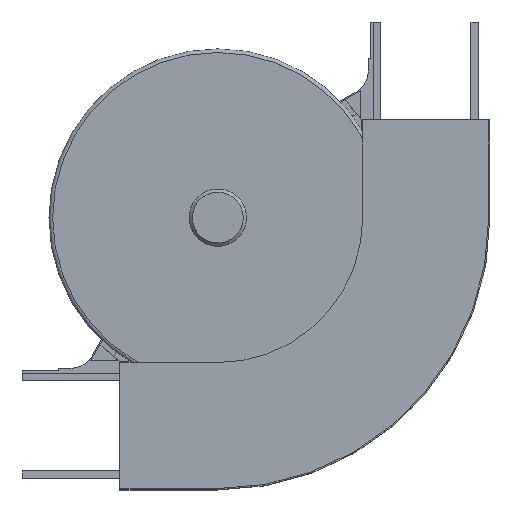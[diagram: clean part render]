
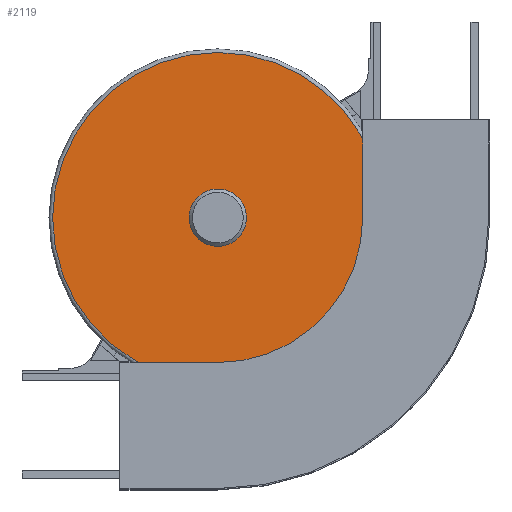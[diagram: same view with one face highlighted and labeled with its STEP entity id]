
A CAD part, top view. The second image highlights one B-rep face of the part: STEP entity #2119.
In plain terms, the highlighted planar face has unit normal (0, 0, 1).
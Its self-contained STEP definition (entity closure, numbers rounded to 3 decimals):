
#44=FACE_BOUND('',#347,.T.);
#83=CIRCLE('',#2281,21.);
#84=CIRCLE('',#2283,135.);
#218=FACE_OUTER_BOUND('',#346,.T.);
#346=EDGE_LOOP('',(#1799));
#347=EDGE_LOOP('',(#1800));
#1027=VERTEX_POINT('',#3369);
#1028=VERTEX_POINT('',#3373);
#1291=EDGE_CURVE('',#1027,#1027,#83,.T.);
#1293=EDGE_CURVE('',#1028,#1028,#84,.T.);
#1799=ORIENTED_EDGE('',*,*,#1293,.F.);
#1800=ORIENTED_EDGE('',*,*,#1291,.T.);
#2008=PLANE('',#2282);
#2119=ADVANCED_FACE('',(#218,#44),#2008,.T.);
#2281=AXIS2_PLACEMENT_3D('',#3370,#2754,#2755);
#2282=AXIS2_PLACEMENT_3D('',#3372,#2757,#2758);
#2283=AXIS2_PLACEMENT_3D('',#3374,#2759,#2760);
#2754=DIRECTION('center_axis',(0.,0.,-1.));
#2755=DIRECTION('ref_axis',(1.,0.,0.));
#2757=DIRECTION('center_axis',(0.,0.,1.));
#2758=DIRECTION('ref_axis',(1.,0.,0.));
#2759=DIRECTION('center_axis',(0.,0.,-1.));
#2760=DIRECTION('ref_axis',(1.,0.,0.));
#3369=CARTESIAN_POINT('',(94.849,155.151,39.));
#3370=CARTESIAN_POINT('Origin',(80.,170.,39.));
#3372=CARTESIAN_POINT('Origin',(-15.459,265.459,39.));
#3373=CARTESIAN_POINT('',(215.,170.,39.));
#3374=CARTESIAN_POINT('Origin',(80.,170.,39.));
